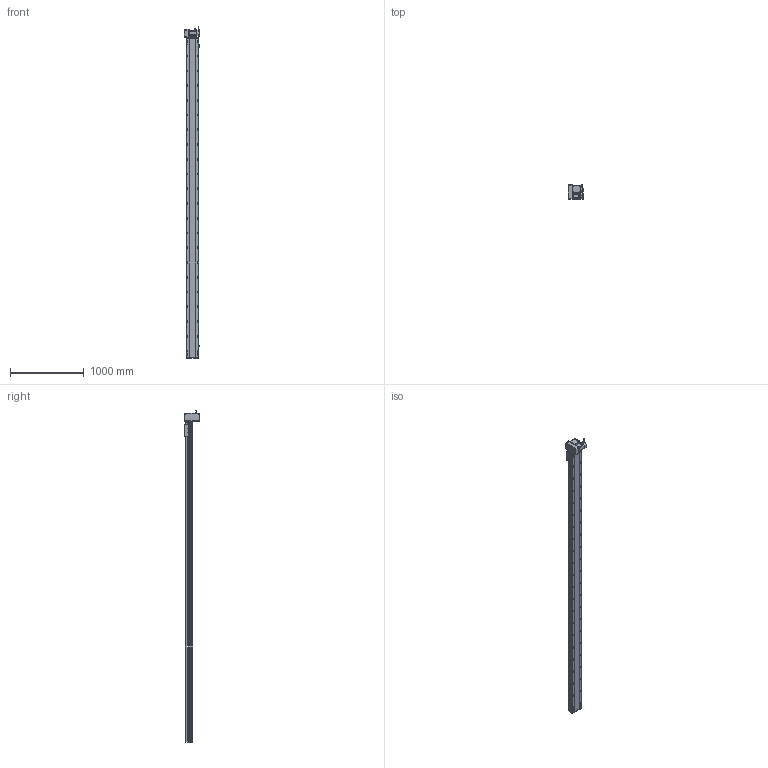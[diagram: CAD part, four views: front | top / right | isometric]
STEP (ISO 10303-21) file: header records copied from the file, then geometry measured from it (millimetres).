
FILE_DESCRIPTION (( 'STEP AP214' ), '1' );
FILE_NAME ('RTB17S-XX-4050-LM-M75-C4.STEP', '2025-12-12T00:55:57', ( '' ), ( '' ), 'SwSTEP 2.0', 'SolidWorks 2018', '' );
FILE_SCHEMA (( 'AUTOMOTIVE_DESIGN' ));
Length unit declared in the file: millimetre
Products named in the file (15): RTB17-R-011菁釱^RTB17S-XX-XX-LM-M75-C4; RTB22S-GY-008-M75--萇儂啣^RTB17S-LM-々湍釱蚾饜-750W_RTB17S-XX-XX-LM-M75-C4; RTB22S-GY-017P^RTB17S-LM-々湍釱蚾饜-750W_RTB17S-XX-XX-LM-M75-C4; RTB17S-L-007奻裔^RTB17S-XX-XX-LM-M75-C4; 750W萇儂^RTB17S-XX-XX-LM-M75-C4; EE672^RTB17S-XX-XX-LM-M75-C4; RTB17S-賑釱^RTB17S-XX-XX-LM-M75-C4; RTB17S-LM-々湍釱蚾饜-750W^RTB17S-XX-XX-LM-M75-C4; RTB17S-L-001-耜醱啣^RTB17S-XX-XX-LM-M75-C4; RTB22S-GY-005P^RTB17S-LM-々湍釱蚾饜-750W_RTB17S-XX-XX-LM-M75-C4; RTB22S-GY-018P^RTB17S-LM-々湍釱蚾饜-750W_RTB17S-XX-XX-LM-M75-C4; RTH13-BL-012覜茼え俋离^RTB17S-賑釱_RTB17S-XX-XX-LM-M75-C4; RTB17S-L-004-賑釱^RTB17S-賑釱_RTB17S-XX-XX-LM-M75-C4; RTB17S-L-014-T20-P75--々湍釱^RTB17S-LM-々湍釱蚾饜-750W_RTB17S-XX-XX-LM-M75-C4; RTB17S-XX-4050-LM-M75-C4
Assembly tree (17 placements, depth 3):
  RTB17S-XX-4050-LM-M75-C4
    RTB17-R-011菁釱^RTB17S-XX-XX-LM-M75-C4
    EE672^RTB17S-XX-XX-LM-M75-C4  x3
    RTB17S-L-001-耜醱啣^RTB17S-XX-XX-LM-M75-C4
    RTB17S-賑釱^RTB17S-XX-XX-LM-M75-C4
      RTB17S-L-004-賑釱^RTB17S-賑釱_RTB17S-XX-XX-LM-M75-C4
      RTH13-BL-012覜茼え俋离^RTB17S-賑釱_RTB17S-XX-XX-LM-M75-C4
    RTB17S-L-007奻裔^RTB17S-XX-XX-LM-M75-C4
    750W萇儂^RTB17S-XX-XX-LM-M75-C4
    RTB17S-LM-々湍釱蚾饜-750W^RTB17S-XX-XX-LM-M75-C4
      RTB17S-L-014-T20-P75--々湍釱^RTB17S-LM-々湍釱蚾饜-750W_RTB17S-XX-XX-LM-M75-C4
      RTB22S-GY-005P^RTB17S-LM-々湍釱蚾饜-750W_RTB17S-XX-XX-LM-M75-C4
      RTB22S-GY-017P^RTB17S-LM-々湍釱蚾饜-750W_RTB17S-XX-XX-LM-M75-C4  x2
      RTB22S-GY-008-M75--萇儂啣^RTB17S-LM-々湍釱蚾饜-750W_RTB17S-XX-XX-LM-M75-C4
      RTB22S-GY-018P^RTB17S-LM-々湍釱蚾饜-750W_RTB17S-XX-XX-LM-M75-C4
Bounding box: 210.4 x 200 x 4502.2 mm (x, y, z)
Volume: 31261931.3 mm3; surface area: 5819121.8 mm2
Topology: 17 solids, 17 shells, 2345 faces, 6646 edges, 4310 vertices
Faces by surface type: plane 1002, cylinder 927, bspline 294, cone 110, sphere 8, torus 4
Entity records: 70390 total; most frequent: CARTESIAN_POINT 21110, ORIENTED_EDGE 10136, DIRECTION 9302, EDGE_CURVE 5068, AXIS2_PLACEMENT_3D 3330, VERTEX_POINT 3314, VECTOR 2642, LINE 2642
